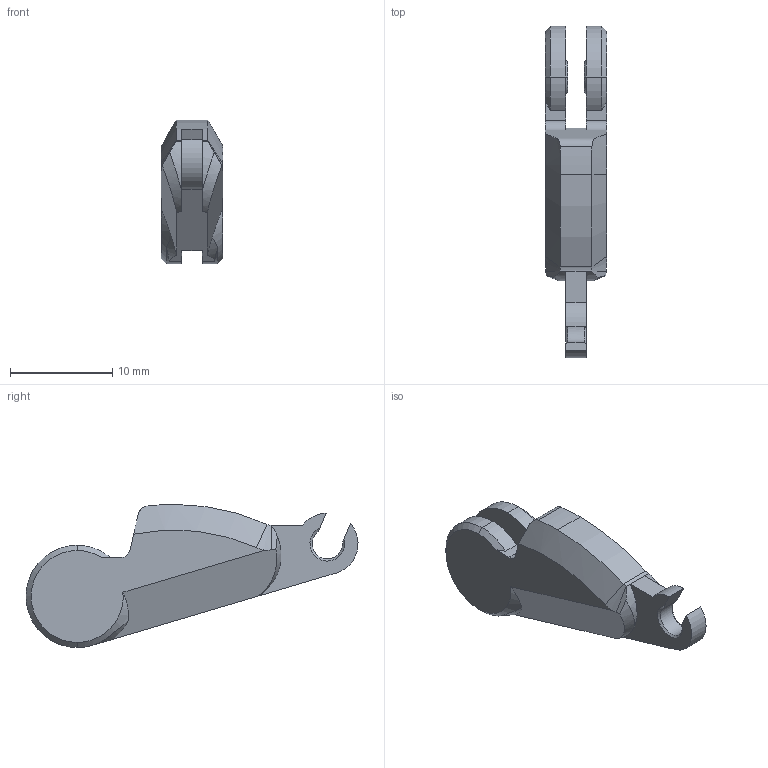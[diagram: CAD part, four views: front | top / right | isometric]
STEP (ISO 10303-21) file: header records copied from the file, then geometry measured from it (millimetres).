
FILE_DESCRIPTION (( 'STEP AP203' ), '1' );
FILE_NAME ('under_leg.step', '2023-08-15T08:05:44', ( '' ), ( '' ), 'SwSTEP 2.0', 'SolidWorks 2020', '' );
FILE_SCHEMA (( 'CONFIG_CONTROL_DESIGN' ));
Length unit declared in the file: millimetre
Products named in the file (1): under_leg
Bounding box: 6 x 32.46 x 14 mm (x, y, z)
Volume: 1101.7 mm3; surface area: 988 mm2
Topology: 1 solids, 1 shells, 59 faces, 154 edges, 99 vertices
Faces by surface type: plane 20, cone 18, cylinder 17, bspline 4
Entity records: 2239 total; most frequent: CARTESIAN_POINT 748, ORIENTED_EDGE 308, DIRECTION 285, EDGE_CURVE 154, AXIS2_PLACEMENT_3D 109, VERTEX_POINT 99, LINE 67, VECTOR 67
